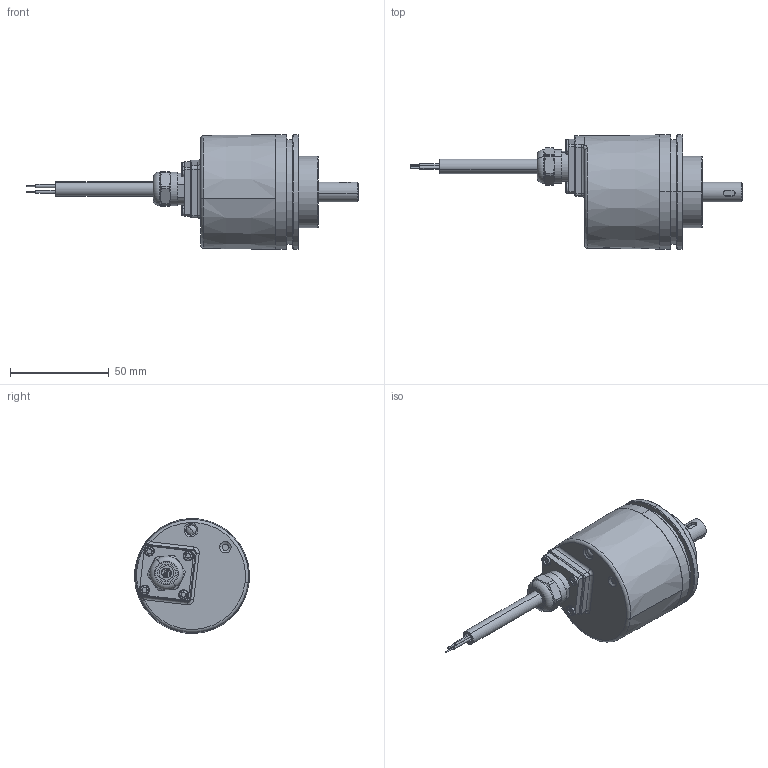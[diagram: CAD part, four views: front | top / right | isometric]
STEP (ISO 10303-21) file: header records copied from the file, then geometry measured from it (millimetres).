
FILE_DESCRIPTION (( 'STEP AP214' ), '1' );
FILE_NAME ('5863SIL.1AX1.XXXX.STEP', '2010-11-03T07:51:33', ( 'admin' ), ( 'Fritz Kübler GmbH' ), 'SwSTEP 2.0', 'SolidWorks 2009', '' );
FILE_SCHEMA (( 'AUTOMOTIVE_DESIGN' ));
Length unit declared in the file: millimetre
Products named in the file (1): 5863SIL.1AX1.XXXX
Bounding box: 167.7 x 58 x 58 mm (x, y, z)
Surface area: 24030.4 mm2 (no closed solid volume)
Topology: 0 solids, 13 shells, 260 faces, 655 edges, 417 vertices
Faces by surface type: plane 93, cylinder 80, cone 45, torus 28, sphere 10, bspline 4
Entity records: 11456 total; most frequent: CARTESIAN_POINT 2156, DIRECTION 1484, ORIENTED_EDGE 1208, EDGE_CURVE 655, AXIS2_PLACEMENT_3D 612, VERTEX_POINT 417, CIRCLE 355, EDGE_LOOP 295
